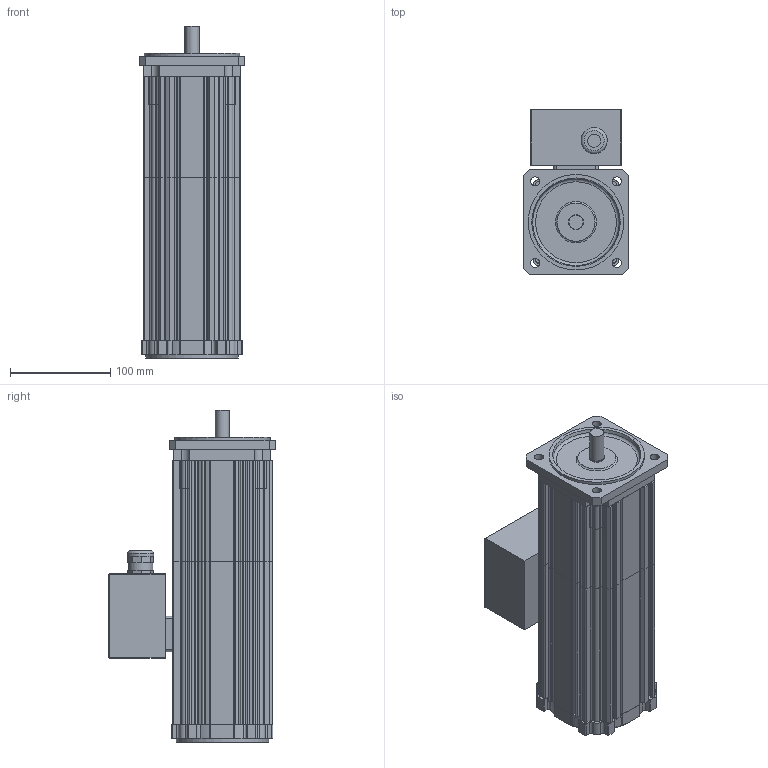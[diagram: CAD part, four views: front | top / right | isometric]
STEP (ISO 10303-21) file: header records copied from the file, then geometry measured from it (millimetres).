
FILE_DESCRIPTION(/* description */ (''),/* implementation_level */ '2;1');
FILE_NAME(/* name */ 'KSA4412_MC',/* time_stamp */ '2009-02-26T14:00:55+01:00',/* author */ (''),/* organization */ (''),/* preprocessor_version */ 'ST-DEVELOPER v8',/* originating_system */ 'UNIGRAPHICS SOLUTIONS - UNIGRAPHICS 18.0',/* authorisation */ '');
FILE_SCHEMA (('AUTOMOTIVE_DESIGN { 1 2 10303 214 0 1 1 1 }'));
Length unit declared in the file: millimetre
Products named in the file (6): 0280391350_0; Lagersch4AS_0; Lagersch4BS_0; 089105X_0; Klemmenkasten_0; KSA444_MC_0
Assembly tree (5 placements, depth 3):
  KSA444_MC_0
    089105X_0
    Lagersch4BS_0
    Klemmenkasten_0
      0280391350_0
    Lagersch4AS_0
Bounding box: 105 x 165.35 x 330.5 mm (x, y, z)
Volume: 1490174.6 mm3; surface area: 402564.7 mm2
Topology: 6 solids, 6 shells, 582 faces, 1644 edges, 1085 vertices
Faces by surface type: cylinder 279, plane 269, torus 12, cone 10, bspline 8, sphere 4
Full cylindrical faces by diameter (mm): 9 x4, 13 x1, 14 x1, 15 x1, 18 x1, 20 x1, 24 x1, 26 x1, 89.6 x2, 91 x1, 95 x1
Entity records: 19170 total; most frequent: CARTESIAN_POINT 3612, DIRECTION 3320, ORIENTED_EDGE 3210, EDGE_CURVE 1605, AXIS2_PLACEMENT_3D 1191, VERTEX_POINT 1075, LINE 938, VECTOR 938
